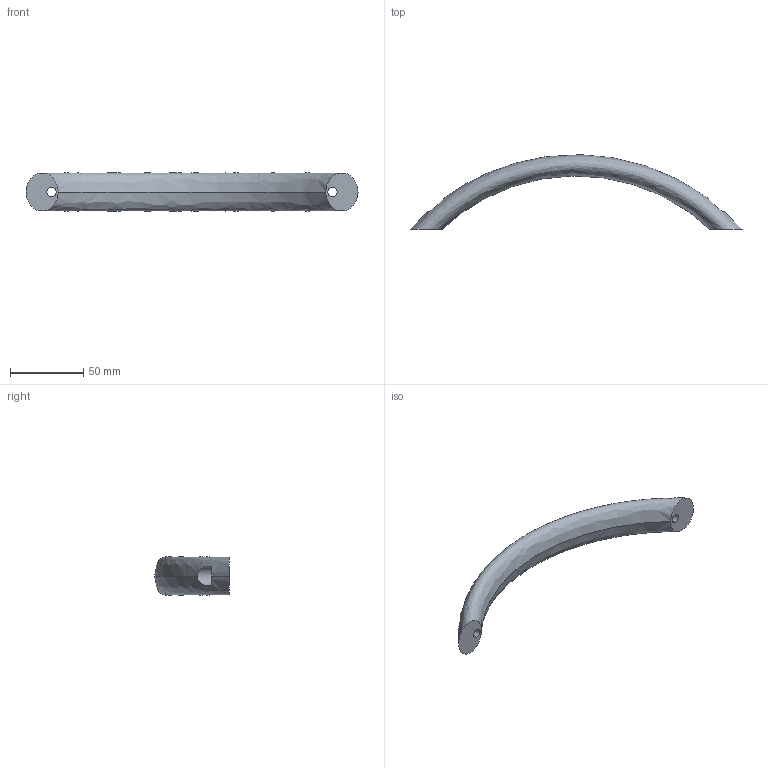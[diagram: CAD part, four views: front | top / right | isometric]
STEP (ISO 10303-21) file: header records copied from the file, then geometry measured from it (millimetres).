
FILE_DESCRIPTION (( 'STEP AP203' ), '1' );
FILE_NAME ('gn565-4_b_192-m6.step', '2010-11-02T08:21:25', ( '_' ), ( '_' ), 'SwSTEP 2.0', 'SolidWorks 2010', '' );
FILE_SCHEMA (( 'CONFIG_CONTROL_DESIGN' ));
Length unit declared in the file: millimetre
Products named in the file (1): gn565-4_b_192-m6
Bounding box: 227 x 50.96 x 26 mm (x, y, z)
Volume: 68129.3 mm3; surface area: 16797.5 mm2
Topology: 1 solids, 1 shells, 22 faces, 54 edges, 36 vertices
Faces by surface type: cylinder 10, plane 10, bspline 2
Entity records: 1867 total; most frequent: CARTESIAN_POINT 1285, ORIENTED_EDGE 108, DIRECTION 94, EDGE_CURVE 54, AXIS2_PLACEMENT_3D 39, VERTEX_POINT 36, EDGE_LOOP 28, ADVANCED_FACE 22
